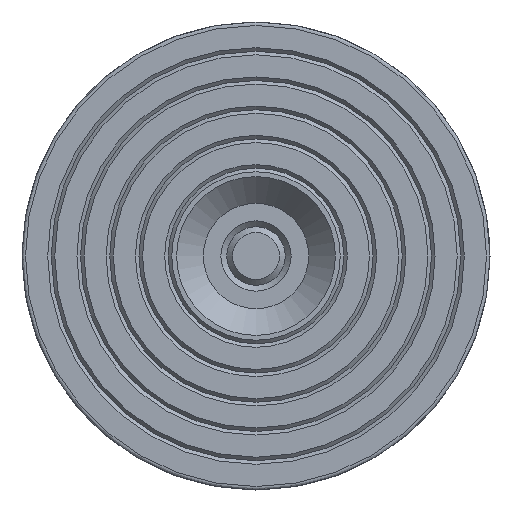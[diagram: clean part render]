
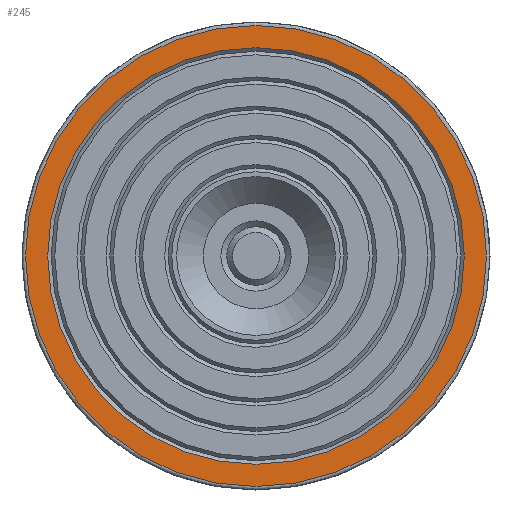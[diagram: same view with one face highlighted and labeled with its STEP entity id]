
A CAD part, front view. The second image highlights one B-rep face of the part: STEP entity #245.
In plain terms, the highlighted planar face has unit normal (0, -1, 0).
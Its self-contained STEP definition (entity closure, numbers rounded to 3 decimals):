
#186=CARTESIAN_POINT('',(37.685,99.374,0.0));
#187=VERTEX_POINT('',#186);
#194=CARTESIAN_POINT('',(-33.531,99.374,0.0));
#195=VERTEX_POINT('',#194);
#196=CARTESIAN_POINT('',(2.077,99.374,0.0));
#197=DIRECTION('',(0.0,-1.0,0.0));
#198=DIRECTION('',(1.0,0.0,0.0));
#199=AXIS2_PLACEMENT_3D('',#196,#197,#198);
#200=CIRCLE('',#199,35.608);
#201=EDGE_CURVE('',#187,#195,#200,.T.);
#203=CARTESIAN_POINT('',(2.077,99.374,0.0));
#204=DIRECTION('',(0.0,-1.0,0.0));
#205=DIRECTION('',(1.0,0.0,0.0));
#206=AXIS2_PLACEMENT_3D('',#203,#204,#205);
#207=CIRCLE('',#206,35.608);
#208=EDGE_CURVE('',#195,#187,#207,.T.);
#216=CARTESIAN_POINT('',(-76.723,99.374,-78.8));
#217=DIRECTION('',(0.0,1.0,0.0));
#218=DIRECTION('',(0.0,0.0,1.0));
#219=AXIS2_PLACEMENT_3D('',#216,#217,#218);
#220=PLANE('',#219);
#221=CARTESIAN_POINT('',(41.477,99.374,0.0));
#222=VERTEX_POINT('',#221);
#223=CARTESIAN_POINT('',(-37.323,99.374,0.0));
#224=VERTEX_POINT('',#223);
#225=CARTESIAN_POINT('',(2.077,99.374,0.0));
#226=DIRECTION('',(0.0,-1.0,0.0));
#227=DIRECTION('',(1.0,0.0,0.0));
#228=AXIS2_PLACEMENT_3D('',#225,#226,#227);
#229=CIRCLE('',#228,39.4);
#230=EDGE_CURVE('',#222,#224,#229,.T.);
#231=ORIENTED_EDGE('',*,*,#230,.T.);
#232=CARTESIAN_POINT('',(2.077,99.374,0.0));
#233=DIRECTION('',(0.0,-1.0,0.0));
#234=DIRECTION('',(1.0,0.0,0.0));
#235=AXIS2_PLACEMENT_3D('',#232,#233,#234);
#236=CIRCLE('',#235,39.4);
#237=EDGE_CURVE('',#224,#222,#236,.T.);
#238=ORIENTED_EDGE('',*,*,#237,.T.);
#239=EDGE_LOOP('',(#231,#238));
#240=FACE_OUTER_BOUND('',#239,.T.);
#241=ORIENTED_EDGE('',*,*,#208,.F.);
#242=ORIENTED_EDGE('',*,*,#201,.F.);
#243=EDGE_LOOP('',(#241,#242));
#244=FACE_BOUND('',#243,.T.);
#245=ADVANCED_FACE('',(#240,#244),#220,.F.);
